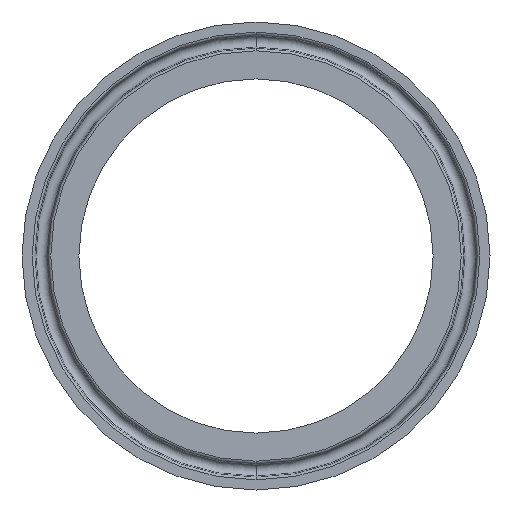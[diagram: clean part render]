
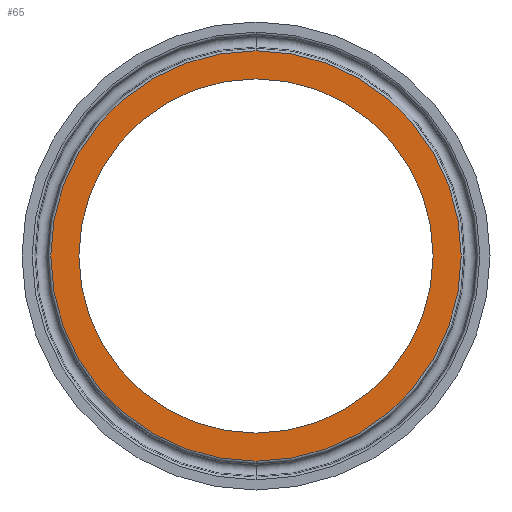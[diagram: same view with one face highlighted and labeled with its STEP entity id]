
A CAD part, front view. The second image highlights one B-rep face of the part: STEP entity #65.
In plain terms, the highlighted planar face has unit normal (0, -1, 0).
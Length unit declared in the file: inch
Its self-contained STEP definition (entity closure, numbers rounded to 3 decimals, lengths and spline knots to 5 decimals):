
#3 = EDGE_CURVE ( 'NONE', #358, #414, #212, .T. ) ;
#13 = ORIENTED_EDGE ( 'NONE', *, *, #553, .F. ) ;
#65 = ADVANCED_FACE ( 'NONE', ( #388, #597 ), #289, .F. ) ;
#67 = CARTESIAN_POINT ( 'NONE',  ( 0., 0., 1.56941 ) ) ;
#98 = EDGE_CURVE ( 'NONE', #532, #464, #600, .T. ) ;
#104 = DIRECTION ( 'NONE',  ( 0., 0., 1. ) ) ;
#108 = DIRECTION ( 'NONE',  ( 0., 1., 0. ) ) ;
#129 = CARTESIAN_POINT ( 'NONE',  ( 0., 0., 0. ) ) ;
#164 = ORIENTED_EDGE ( 'NONE', *, *, #645, .T. ) ;
#171 = AXIS2_PLACEMENT_3D ( 'NONE', #460, #350, #104 ) ;
#175 = DIRECTION ( 'NONE',  ( 0., 0., 1. ) ) ;
#212 = CIRCLE ( 'NONE', #276, 1.56941 ) ;
#217 = CIRCLE ( 'NONE', #507, 1.3545 ) ;
#239 = DIRECTION ( 'NONE',  ( 0., 0., 1. ) ) ;
#276 = AXIS2_PLACEMENT_3D ( 'NONE', #651, #288, #175 ) ;
#285 = EDGE_LOOP ( 'NONE', ( #372, #164 ) ) ;
#288 = DIRECTION ( 'NONE',  ( 0., 1., 0. ) ) ;
#289 = PLANE ( 'NONE',  #572 ) ;
#341 = DIRECTION ( 'NONE',  ( 0., 1., 0. ) ) ;
#350 = DIRECTION ( 'NONE',  ( 0., 1., 0. ) ) ;
#358 = VERTEX_POINT ( 'NONE', #67 ) ;
#359 = DIRECTION ( 'NONE',  ( 0., 0., 1. ) ) ;
#364 = CARTESIAN_POINT ( 'NONE',  ( 0., 0., 0. ) ) ;
#372 = ORIENTED_EDGE ( 'NONE', *, *, #98, .T. ) ;
#388 = FACE_OUTER_BOUND ( 'NONE', #542, .T. ) ;
#414 = VERTEX_POINT ( 'NONE', #433 ) ;
#433 = CARTESIAN_POINT ( 'NONE',  ( 0., 0., -1.56941 ) ) ;
#460 = CARTESIAN_POINT ( 'NONE',  ( 0., 0., 0. ) ) ;
#461 = CIRCLE ( 'NONE', #171, 1.56941 ) ;
#464 = VERTEX_POINT ( 'NONE', #546 ) ;
#492 = DIRECTION ( 'NONE',  ( 0., 0., 1. ) ) ;
#507 = AXIS2_PLACEMENT_3D ( 'NONE', #364, #108, #359 ) ;
#514 = CARTESIAN_POINT ( 'NONE',  ( 0., 0., 1.3545 ) ) ;
#532 = VERTEX_POINT ( 'NONE', #514 ) ;
#542 = EDGE_LOOP ( 'NONE', ( #581, #13 ) ) ;
#546 = CARTESIAN_POINT ( 'NONE',  ( 0., 0., -1.3545 ) ) ;
#553 = EDGE_CURVE ( 'NONE', #414, #358, #461, .T. ) ;
#572 = AXIS2_PLACEMENT_3D ( 'NONE', #129, #341, #492 ) ;
#581 = ORIENTED_EDGE ( 'NONE', *, *, #3, .F. ) ;
#597 = FACE_BOUND ( 'NONE', #285, .T. ) ;
#600 = CIRCLE ( 'NONE', #623, 1.3545 ) ;
#623 = AXIS2_PLACEMENT_3D ( 'NONE', #644, #652, #239 ) ;
#644 = CARTESIAN_POINT ( 'NONE',  ( 0., 0., 0. ) ) ;
#645 = EDGE_CURVE ( 'NONE', #464, #532, #217, .T. ) ;
#651 = CARTESIAN_POINT ( 'NONE',  ( 0., 0., 0. ) ) ;
#652 = DIRECTION ( 'NONE',  ( 0., 1., 0. ) ) ;
